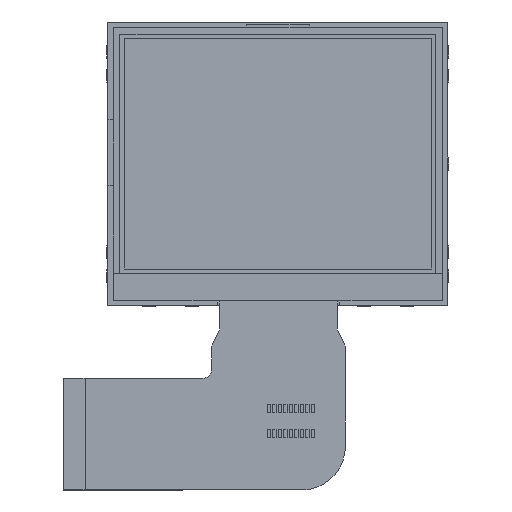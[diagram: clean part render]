
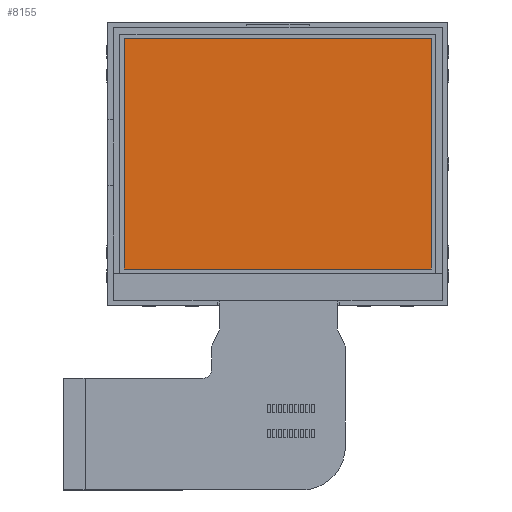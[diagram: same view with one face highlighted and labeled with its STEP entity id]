
A CAD part, top view. The second image highlights one B-rep face of the part: STEP entity #8155.
In plain terms, the highlighted planar face has unit normal (0, 0, 1).
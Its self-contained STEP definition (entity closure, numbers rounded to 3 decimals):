
#183 = EDGE_CURVE ( 'NONE', #14989, #12794, #3287, .T. ) ;
#214 = CARTESIAN_POINT ( 'NONE',  ( 35.04, -23.955, 3. ) ) ;
#390 = CARTESIAN_POINT ( 'NONE',  ( -35.04, 28.605, 3. ) ) ;
#598 = VERTEX_POINT ( 'NONE', #214 ) ;
#738 = VECTOR ( 'NONE', #6690, 1000. ) ;
#2746 = EDGE_CURVE ( 'NONE', #12794, #598, #18211, .T. ) ;
#2854 = LINE ( 'NONE', #12053, #14817 ) ;
#3287 = LINE ( 'NONE', #3601, #738 ) ;
#3601 = CARTESIAN_POINT ( 'NONE',  ( 0., 28.605, 3. ) ) ;
#4040 = CARTESIAN_POINT ( 'NONE',  ( 0., -23.955, 3. ) ) ;
#4164 = EDGE_LOOP ( 'NONE', ( #11613, #17659, #4382, #16324 ) ) ;
#4382 = ORIENTED_EDGE ( 'NONE', *, *, #2746, .F. ) ;
#5557 = EDGE_CURVE ( 'NONE', #598, #12456, #17586, .T. ) ;
#5728 = DIRECTION ( 'NONE',  ( -1., 0., 0. ) ) ;
#6249 = VECTOR ( 'NONE', #8701, 1000. ) ;
#6338 = CARTESIAN_POINT ( 'NONE',  ( 35.04, 28.605, 3. ) ) ;
#6371 = AXIS2_PLACEMENT_3D ( 'NONE', #18914, #14717, #14842 ) ;
#6690 = DIRECTION ( 'NONE',  ( 1., 0., 0. ) ) ;
#8155 = ADVANCED_FACE ( 'NONE', ( #16530 ), #12878, .T. ) ;
#8701 = DIRECTION ( 'NONE',  ( 0., -1., 0. ) ) ;
#9335 = EDGE_CURVE ( 'NONE', #12456, #14989, #2854, .T. ) ;
#10271 = CARTESIAN_POINT ( 'NONE',  ( 35.04, 0., 3. ) ) ;
#11613 = ORIENTED_EDGE ( 'NONE', *, *, #9335, .F. ) ;
#12053 = CARTESIAN_POINT ( 'NONE',  ( -35.04, 0., 3. ) ) ;
#12456 = VERTEX_POINT ( 'NONE', #17369 ) ;
#12794 = VERTEX_POINT ( 'NONE', #6338 ) ;
#12878 = PLANE ( 'NONE',  #6371 ) ;
#14717 = DIRECTION ( 'NONE',  ( 0., 0., 1. ) ) ;
#14817 = VECTOR ( 'NONE', #14904, 1000. ) ;
#14842 = DIRECTION ( 'NONE',  ( 1., 0., 0. ) ) ;
#14904 = DIRECTION ( 'NONE',  ( 0., 1., 0. ) ) ;
#14989 = VERTEX_POINT ( 'NONE', #390 ) ;
#16324 = ORIENTED_EDGE ( 'NONE', *, *, #183, .F. ) ;
#16530 = FACE_OUTER_BOUND ( 'NONE', #4164, .T. ) ;
#17369 = CARTESIAN_POINT ( 'NONE',  ( -35.04, -23.955, 3. ) ) ;
#17586 = LINE ( 'NONE', #4040, #18529 ) ;
#17659 = ORIENTED_EDGE ( 'NONE', *, *, #5557, .F. ) ;
#18211 = LINE ( 'NONE', #10271, #6249 ) ;
#18529 = VECTOR ( 'NONE', #5728, 1000. ) ;
#18914 = CARTESIAN_POINT ( 'NONE',  ( 0., 0., 3. ) ) ;
